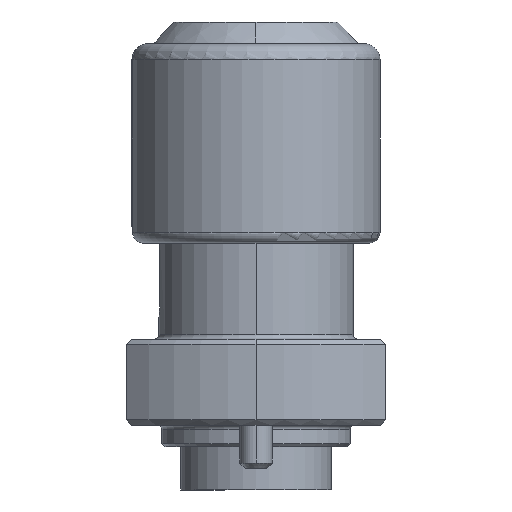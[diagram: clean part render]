
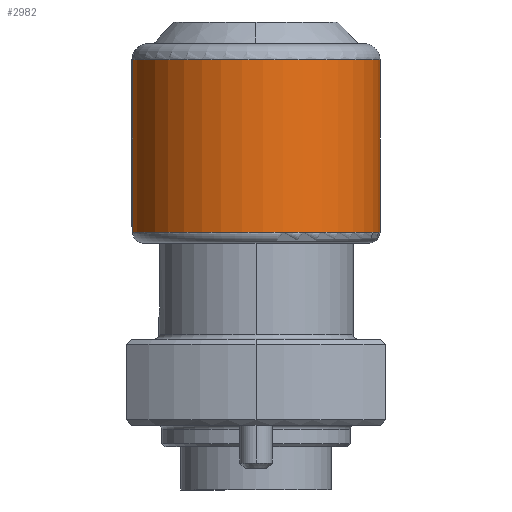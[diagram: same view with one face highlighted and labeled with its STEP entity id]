
A CAD part, left-side view. The second image highlights one B-rep face of the part: STEP entity #2982.
In plain terms, the highlighted cylindrical face has radius 11.5 mm (diameter 23 mm), a partial arc.
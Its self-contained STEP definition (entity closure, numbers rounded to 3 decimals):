
#241 = ORIENTED_EDGE ( 'NONE', *, *, #663, .T. ) ;
#504 = LINE ( 'NONE', #8472, #7193 ) ;
#663 = EDGE_CURVE ( 'NONE', #5254, #6664, #1932, .T. ) ;
#938 = AXIS2_PLACEMENT_3D ( 'NONE', #11394, #4410, #5520 ) ;
#1932 = LINE ( 'NONE', #5063, #11457 ) ;
#2327 = DIRECTION ( 'NONE',  ( 0., 0., 1. ) ) ;
#2385 = CIRCLE ( 'NONE', #8217, 11.5 ) ;
#2413 = ORIENTED_EDGE ( 'NONE', *, *, #10481, .T. ) ;
#2442 = ORIENTED_EDGE ( 'NONE', *, *, #9017, .T. ) ;
#2982 = ADVANCED_FACE ( 'NONE', ( #9230 ), #12180, .T. ) ;
#3241 = DIRECTION ( 'NONE',  ( 0., 1., 0. ) ) ;
#3374 = CARTESIAN_POINT ( 'NONE',  ( 0., 0., 33.895 ) ) ;
#3481 = CARTESIAN_POINT ( 'NONE',  ( 0., 11.5, 17.895 ) ) ;
#3584 = DIRECTION ( 'NONE',  ( 0., 0., 1. ) ) ;
#3985 = CARTESIAN_POINT ( 'NONE',  ( 1.221, -11.435, 33.895 ) ) ;
#4410 = DIRECTION ( 'NONE',  ( 0., 0., 1. ) ) ;
#5063 = CARTESIAN_POINT ( 'NONE',  ( 1.221, -11.435, 37.395 ) ) ;
#5254 = VERTEX_POINT ( 'NONE', #3985 ) ;
#5520 = DIRECTION ( 'NONE',  ( 0., 1., 0. ) ) ;
#6470 = VERTEX_POINT ( 'NONE', #3481 ) ;
#6664 = VERTEX_POINT ( 'NONE', #10795 ) ;
#7193 = VECTOR ( 'NONE', #3584, 1000. ) ;
#7843 = CARTESIAN_POINT ( 'NONE',  ( 0., 11.5, 33.895 ) ) ;
#8217 = AXIS2_PLACEMENT_3D ( 'NONE', #3374, #8326, #9427 ) ;
#8326 = DIRECTION ( 'NONE',  ( 0., 0., -1. ) ) ;
#8472 = CARTESIAN_POINT ( 'NONE',  ( 0., 11.5, 37.395 ) ) ;
#9017 = EDGE_CURVE ( 'NONE', #10018, #5254, #2385, .T. ) ;
#9230 = FACE_OUTER_BOUND ( 'NONE', #9664, .T. ) ;
#9427 = DIRECTION ( 'NONE',  ( 0., -1., 0. ) ) ;
#9664 = EDGE_LOOP ( 'NONE', ( #10350, #2413, #2442, #241 ) ) ;
#10018 = VERTEX_POINT ( 'NONE', #7843 ) ;
#10072 = DIRECTION ( 'NONE',  ( 0., 0., -1. ) ) ;
#10350 = ORIENTED_EDGE ( 'NONE', *, *, #10679, .T. ) ;
#10401 = CARTESIAN_POINT ( 'NONE',  ( 0., 0., 37.395 ) ) ;
#10409 = AXIS2_PLACEMENT_3D ( 'NONE', #10401, #2327, #3241 ) ;
#10481 = EDGE_CURVE ( 'NONE', #6470, #10018, #504, .T. ) ;
#10679 = EDGE_CURVE ( 'NONE', #6664, #6470, #11562, .T. ) ;
#10795 = CARTESIAN_POINT ( 'NONE',  ( 1.221, -11.435, 17.895 ) ) ;
#11394 = CARTESIAN_POINT ( 'NONE',  ( 0., 0., 17.895 ) ) ;
#11457 = VECTOR ( 'NONE', #10072, 1000. ) ;
#11562 = CIRCLE ( 'NONE', #938, 11.5 ) ;
#12180 = CYLINDRICAL_SURFACE ( 'NONE', #10409, 11.5 ) ;
